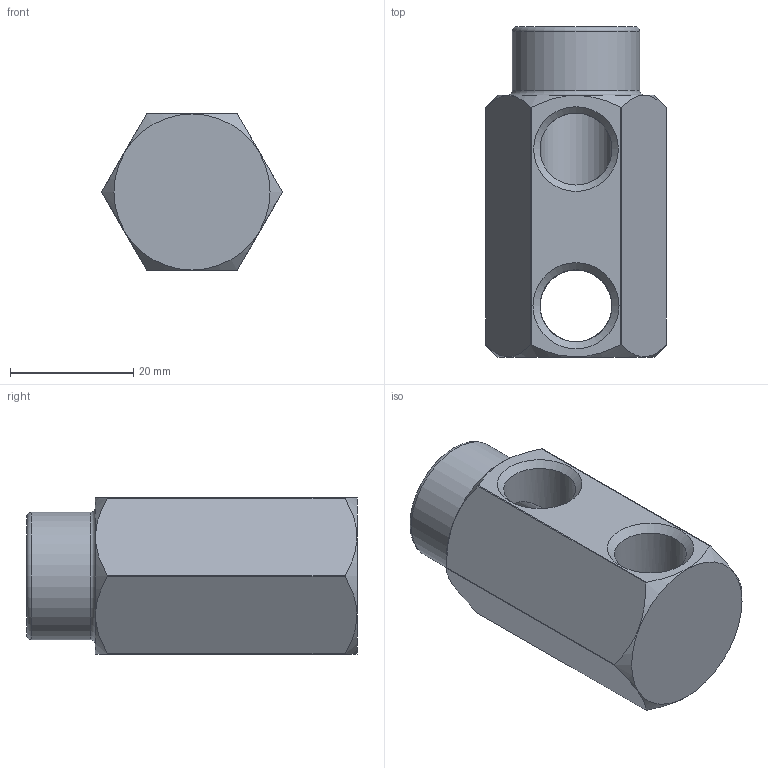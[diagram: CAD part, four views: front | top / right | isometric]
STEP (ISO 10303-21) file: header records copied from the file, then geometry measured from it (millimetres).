
FILE_DESCRIPTION(/* description */ (''),/* implementation_level */ '2;1');
FILE_NAME(/* name */ 'C:/Users/drich/Desktop/141H-4-HFT v1.step',/* time_stamp */ '2020-01-10T20:23:52-06:00',/* author */ (''),/* organization */ (''),/* preprocessor_version */ 'ST-DEVELOPER v18',/* originating_system */ 'Autodesk Translation Framework v8.12.0.6',/* authorisation */ '');
FILE_SCHEMA (('AUTOMOTIVE_DESIGN { 1 0 10303 214 3 1 1 }'));
Length unit declared in the file: inch
Products named in the file (2): 141H-4-HFT; 141H-4
Assembly tree (1 placements, depth 2):
  141H-4-HFT
    141H-4
Bounding box: 29.26 x 53.59 x 25.4 mm (x, y, z)
Volume: 20276.4 mm3; surface area: 7357.5 mm2
Topology: 1 solids, 1 shells, 35 faces, 99 edges, 64 vertices
Faces by surface type: cylinder 13, cone 11, plane 9, torus 2
Full cylindrical faces by diameter (mm): 6.909 x1, 11.668 x4, 20.625 x1
Entity records: 1269 total; most frequent: CARTESIAN_POINT 292, DIRECTION 205, ORIENTED_EDGE 198, EDGE_CURVE 99, AXIS2_PLACEMENT_3D 89, VERTEX_POINT 64, CIRCLE 49, EDGE_LOOP 41
